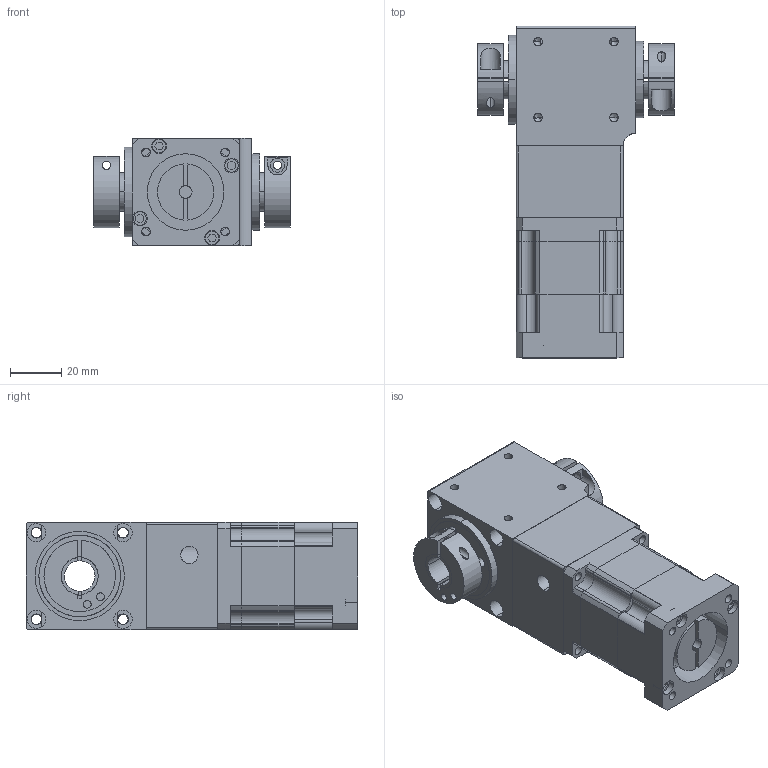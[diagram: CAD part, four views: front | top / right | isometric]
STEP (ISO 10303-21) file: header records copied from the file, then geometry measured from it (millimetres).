
FILE_DESCRIPTION (( 'STEP AP203' ), '1' );
FILE_NAME ('42双孔+PLF042（步进）.STEP', '2020-08-05T07:25:05', ( 'User' ), ( 'China' ), 'SwSTEP 2.0', 'SolidWorks 2015', '' );
FILE_SCHEMA (( 'CONFIG_CONTROL_DESIGN' ));
Length unit declared in the file: millimetre
Products named in the file (13): 怀堤粣ㄗ邧謂ㄘ; 褲极; 標杶2; 输入轴; 綴楊擘ㄗ侂狟100Wㄘ; 蹟譫; NF42单级模型（5-24 22-2 4-3.5-31-31）; 蹟譫ㄗ2ㄘ; 42双孔+PLF042（步进）; 標杶ㄗ1ㄘ; deep groove ball bearings gb_Rolling bearings 6001 GB 276-94; deep groove ball bearings gb_Rolling bearings 6002 GB 276-94; deep groove ball bearings gb_Rolling bearings 61902 GB 276-94
Assembly tree (13 placements, depth 2):
  42双孔+PLF042（步进）
    褲极
    输入轴
    蹟譫
    蹟譫ㄗ2ㄘ
    標杶ㄗ1ㄘ
    deep groove ball bearings gb_Rolling bearings 6001 GB 276-94
    deep groove ball bearings gb_Rolling bearings 6002 GB 276-94
    deep groove ball bearings gb_Rolling bearings 61902 GB 276-94
    怀堤粣ㄗ邧謂ㄘ
    標杶2  x2
    綴楊擘ㄗ侂狟100Wㄘ
    NF42单级模型（5-24 22-2 4-3.5-31-31）
Bounding box: 77 x 130 x 42 mm (x, y, z)
Volume: 191610.9 mm3; surface area: 87928.4 mm2
Topology: 15 solids, 15 shells, 988 faces, 3249 edges, 2147 vertices
Faces by surface type: cylinder 410, plane 240, torus 177, sphere 98, cone 57, bspline 6
Entity records: 38966 total; most frequent: CARTESIAN_POINT 11586, ORIENTED_EDGE 5714, DIRECTION 5349, EDGE_CURVE 2857, AXIS2_PLACEMENT_3D 2278, VERTEX_POINT 1911, CIRCLE 1305, EDGE_LOOP 1144
